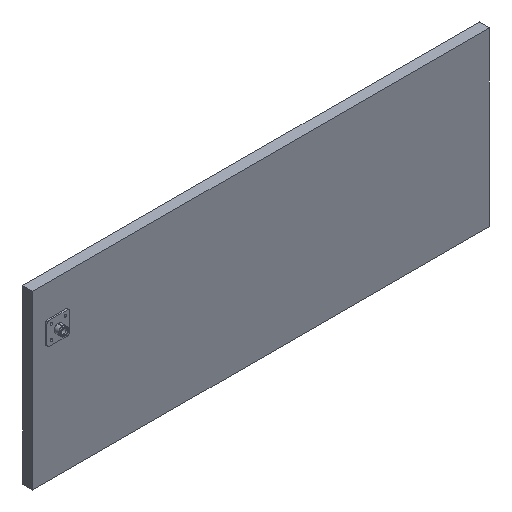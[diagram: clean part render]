
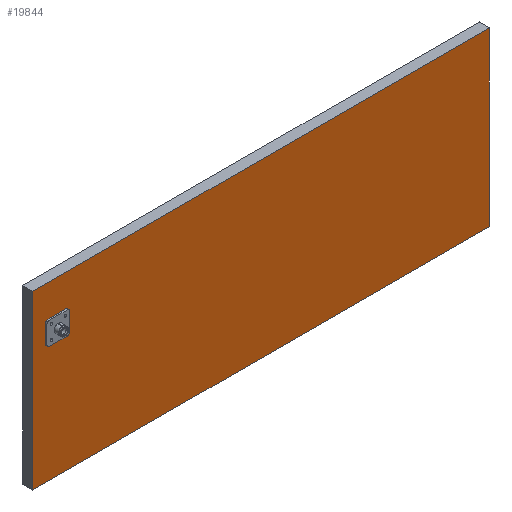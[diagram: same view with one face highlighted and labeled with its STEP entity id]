
A CAD part, isometric view. The second image highlights one B-rep face of the part: STEP entity #19844.
In plain terms, the highlighted planar face has unit normal (0, -1, 0).
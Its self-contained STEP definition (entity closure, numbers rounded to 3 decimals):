
#1878 = CARTESIAN_POINT ( 'NONE',  ( 0., -43.977, 0. ) ) ;
#3081 = VERTEX_POINT ( 'NONE', #71635 ) ;
#3129 = DIRECTION ( 'NONE',  ( 0., 1., 0. ) ) ;
#5153 = DIRECTION ( 'NONE',  ( 0., 0., 1. ) ) ;
#5449 = AXIS2_PLACEMENT_3D ( 'NONE', #33738, #220235, #22865 ) ;
#6605 = CARTESIAN_POINT ( 'NONE',  ( -845.823, -43.977, 209.274 ) ) ;
#8834 = VERTEX_POINT ( 'NONE', #22136 ) ;
#11635 = VERTEX_POINT ( 'NONE', #73542 ) ;
#14805 = EDGE_CURVE ( 'NONE', #196231, #73247, #186455, .T. ) ;
#19844 = ADVANCED_FACE ( 'NONE', ( #89316, #78493 ), #34767, .T. ) ;
#22136 = CARTESIAN_POINT ( 'NONE',  ( -755.823, -43.977, 139.274 ) ) ;
#22865 = DIRECTION ( 'NONE',  ( 0., 0., -1. ) ) ;
#23416 = LINE ( 'NONE', #52621, #196962 ) ;
#26658 = DIRECTION ( 'NONE',  ( 0., 1., 0. ) ) ;
#27583 = LINE ( 'NONE', #184737, #133329 ) ;
#30233 = EDGE_CURVE ( 'NONE', #224758, #176226, #189277, .T. ) ;
#31150 = VECTOR ( 'NONE', #167043, 1000. ) ;
#31205 = DIRECTION ( 'NONE',  ( -1., 0., 0. ) ) ;
#33738 = CARTESIAN_POINT ( 'NONE',  ( -835.823, -43.977, 139.274 ) ) ;
#34636 = AXIS2_PLACEMENT_3D ( 'NONE', #1878, #129612, #140696 ) ;
#34767 = PLANE ( 'NONE',  #34636 ) ;
#39848 = EDGE_CURVE ( 'NONE', #160313, #196231, #60974, .T. ) ;
#41929 = EDGE_LOOP ( 'NONE', ( #125752, #148135, #178721, #182604 ) ) ;
#46408 = ORIENTED_EDGE ( 'NONE', *, *, #93662, .T. ) ;
#46675 = DIRECTION ( 'NONE',  ( 0., 0., -1. ) ) ;
#48713 = CARTESIAN_POINT ( 'NONE',  ( -755.823, -43.977, 219.274 ) ) ;
#51184 = EDGE_CURVE ( 'NONE', #73247, #93552, #27583, .T. ) ;
#52621 = CARTESIAN_POINT ( 'NONE',  ( 909.177, -43.977, -335.726 ) ) ;
#52700 = EDGE_CURVE ( 'NONE', #207644, #11635, #151046, .T. ) ;
#53486 = DIRECTION ( 'NONE',  ( 0., 0., 1. ) ) ;
#55062 = AXIS2_PLACEMENT_3D ( 'NONE', #73410, #84343, #160920 ) ;
#60974 = LINE ( 'NONE', #141330, #179980 ) ;
#61546 = DIRECTION ( 'NONE',  ( 0., 0., -1. ) ) ;
#63042 = VERTEX_POINT ( 'NONE', #138736 ) ;
#64041 = ORIENTED_EDGE ( 'NONE', *, *, #30233, .F. ) ;
#68206 = EDGE_CURVE ( 'NONE', #207644, #63042, #132011, .T. ) ;
#68225 = CARTESIAN_POINT ( 'NONE',  ( -755.823, -43.977, 219.274 ) ) ;
#71635 = CARTESIAN_POINT ( 'NONE',  ( -835.823, -43.977, 129.274 ) ) ;
#73247 = VERTEX_POINT ( 'NONE', #125147 ) ;
#73410 = CARTESIAN_POINT ( 'NONE',  ( -765.823, -43.977, 209.274 ) ) ;
#73542 = CARTESIAN_POINT ( 'NONE',  ( -835.823, -43.977, 219.274 ) ) ;
#75177 = DIRECTION ( 'NONE',  ( 1., 0., 0. ) ) ;
#78493 = FACE_OUTER_BOUND ( 'NONE', #41929, .T. ) ;
#79973 = ORIENTED_EDGE ( 'NONE', *, *, #129241, .T. ) ;
#84340 = CARTESIAN_POINT ( 'NONE',  ( 909.177, -43.977, -335.726 ) ) ;
#84343 = DIRECTION ( 'NONE',  ( 0., 1., 0. ) ) ;
#86055 = VERTEX_POINT ( 'NONE', #152407 ) ;
#86611 = AXIS2_PLACEMENT_3D ( 'NONE', #185790, #3129, #61546 ) ;
#89316 = FACE_BOUND ( 'NONE', #178575, .T. ) ;
#92344 = ORIENTED_EDGE ( 'NONE', *, *, #68206, .T. ) ;
#93552 = VERTEX_POINT ( 'NONE', #84340 ) ;
#93662 = EDGE_CURVE ( 'NONE', #224758, #11635, #99000, .T. ) ;
#97996 = VECTOR ( 'NONE', #175330, 1000. ) ;
#99000 = CIRCLE ( 'NONE', #173217, 10. ) ;
#100627 = ORIENTED_EDGE ( 'NONE', *, *, #52700, .F. ) ;
#101298 = LINE ( 'NONE', #148921, #31150 ) ;
#103171 = ORIENTED_EDGE ( 'NONE', *, *, #127500, .T. ) ;
#105080 = VECTOR ( 'NONE', #158252, 1000. ) ;
#106890 = CARTESIAN_POINT ( 'NONE',  ( -835.823, -43.977, 209.274 ) ) ;
#108209 = EDGE_CURVE ( 'NONE', #93552, #160313, #23416, .T. ) ;
#119618 = CARTESIAN_POINT ( 'NONE',  ( -895.823, -43.977, 344.274 ) ) ;
#119746 = CARTESIAN_POINT ( 'NONE',  ( -845.823, -43.977, 219.274 ) ) ;
#125147 = CARTESIAN_POINT ( 'NONE',  ( -895.823, -43.977, -335.726 ) ) ;
#125752 = ORIENTED_EDGE ( 'NONE', *, *, #14805, .T. ) ;
#127418 = CARTESIAN_POINT ( 'NONE',  ( 909.177, -43.977, 344.274 ) ) ;
#127500 = EDGE_CURVE ( 'NONE', #3081, #176226, #187212, .T. ) ;
#129241 = EDGE_CURVE ( 'NONE', #8834, #86055, #222070, .T. ) ;
#129612 = DIRECTION ( 'NONE',  ( 0., -1., 0. ) ) ;
#132011 = CIRCLE ( 'NONE', #55062, 10. ) ;
#133329 = VECTOR ( 'NONE', #75177, 1000. ) ;
#138736 = CARTESIAN_POINT ( 'NONE',  ( -755.823, -43.977, 209.274 ) ) ;
#140696 = DIRECTION ( 'NONE',  ( 1., 0., 0. ) ) ;
#141330 = CARTESIAN_POINT ( 'NONE',  ( 909.177, -43.977, 344.274 ) ) ;
#145124 = CARTESIAN_POINT ( 'NONE',  ( -845.823, -43.977, 139.274 ) ) ;
#148135 = ORIENTED_EDGE ( 'NONE', *, *, #51184, .T. ) ;
#148921 = CARTESIAN_POINT ( 'NONE',  ( -755.823, -43.977, 129.274 ) ) ;
#149993 = CARTESIAN_POINT ( 'NONE',  ( -895.823, -43.977, 344.274 ) ) ;
#151046 = LINE ( 'NONE', #48713, #105080 ) ;
#152407 = CARTESIAN_POINT ( 'NONE',  ( -765.823, -43.977, 129.274 ) ) ;
#158252 = DIRECTION ( 'NONE',  ( -1., 0., 0. ) ) ;
#160313 = VERTEX_POINT ( 'NONE', #127418 ) ;
#160327 = CARTESIAN_POINT ( 'NONE',  ( -765.823, -43.977, 219.274 ) ) ;
#160920 = DIRECTION ( 'NONE',  ( 0., 0., -1. ) ) ;
#164298 = EDGE_CURVE ( 'NONE', #8834, #63042, #166789, .T. ) ;
#166789 = LINE ( 'NONE', #68225, #172699 ) ;
#167043 = DIRECTION ( 'NONE',  ( 1., 0., 0. ) ) ;
#169192 = DIRECTION ( 'NONE',  ( 0., 0., -1. ) ) ;
#172699 = VECTOR ( 'NONE', #53486, 1000. ) ;
#173217 = AXIS2_PLACEMENT_3D ( 'NONE', #106890, #26658, #169192 ) ;
#175330 = DIRECTION ( 'NONE',  ( 0., 0., -1. ) ) ;
#176126 = EDGE_CURVE ( 'NONE', #3081, #86055, #101298, .T. ) ;
#176226 = VERTEX_POINT ( 'NONE', #145124 ) ;
#178575 = EDGE_LOOP ( 'NONE', ( #46408, #100627, #92344, #205714, #79973, #184116, #103171, #64041 ) ) ;
#178721 = ORIENTED_EDGE ( 'NONE', *, *, #108209, .T. ) ;
#179609 = VECTOR ( 'NONE', #46675, 1000. ) ;
#179980 = VECTOR ( 'NONE', #31205, 1000. ) ;
#182604 = ORIENTED_EDGE ( 'NONE', *, *, #39848, .T. ) ;
#184116 = ORIENTED_EDGE ( 'NONE', *, *, #176126, .F. ) ;
#184737 = CARTESIAN_POINT ( 'NONE',  ( -895.823, -43.977, -335.726 ) ) ;
#185790 = CARTESIAN_POINT ( 'NONE',  ( -765.823, -43.977, 139.274 ) ) ;
#186455 = LINE ( 'NONE', #149993, #97996 ) ;
#187212 = CIRCLE ( 'NONE', #5449, 10. ) ;
#189277 = LINE ( 'NONE', #119746, #179609 ) ;
#196231 = VERTEX_POINT ( 'NONE', #119618 ) ;
#196962 = VECTOR ( 'NONE', #5153, 1000. ) ;
#205714 = ORIENTED_EDGE ( 'NONE', *, *, #164298, .F. ) ;
#207644 = VERTEX_POINT ( 'NONE', #160327 ) ;
#220235 = DIRECTION ( 'NONE',  ( 0., 1., 0. ) ) ;
#222070 = CIRCLE ( 'NONE', #86611, 10. ) ;
#224758 = VERTEX_POINT ( 'NONE', #6605 ) ;
